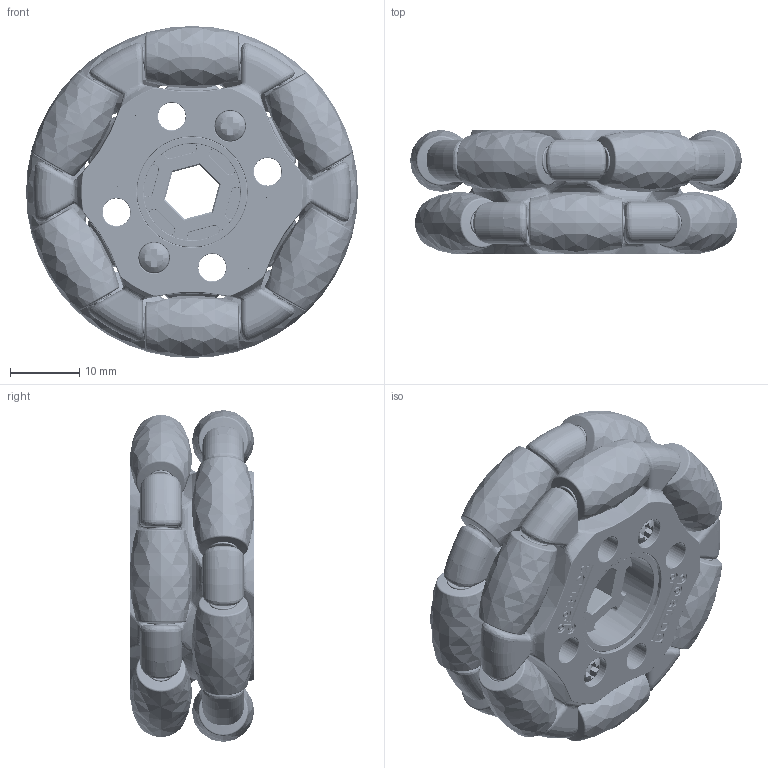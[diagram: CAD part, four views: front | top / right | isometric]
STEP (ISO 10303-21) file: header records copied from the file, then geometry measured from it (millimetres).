
FILE_DESCRIPTION(/* description */ (''),/* implementation_level */ '2;1');
FILE_NAME(/* name */ '3624-4008-0048 3 Piece.step',/* time_stamp */ '2023-07-19T11:15:52-05:00',/* author */ (''),/* organization */ (''),/* preprocessor_version */ 'ST-DEVELOPER v19.2',/* originating_system */ 'Autodesk Translation Framework v12.6.0.85',/* authorisation */ '');
FILE_SCHEMA (('AUTOMOTIVE_DESIGN { 1 0 10303 214 3 1 1 }'));
Products named in the file (9): [*] 3624-4008-0048 3P_2; Core; Side; Rollers; Roller; Tire; Core (1); Shaft; M2.5 x 1mm x 14mm
Assembly tree (18 placements, depth 4):
  [*] 3624-4008-0048 3P_2
    Core
    Side  x2
    Rollers  x2
      Roller
        Tire
        Core (1)
        Shaft
    M2.5 x 1mm x 14mm  x4
Bounding box: 48 x 18 x 48 mm (x, y, z)
Volume: 20289.6 mm3; surface area: 29048.7 mm2
Topology: 43 solids, 43 shells, 3461 faces, 8706 edges, 5427 vertices
Faces by surface type: cylinder 1168, plane 836, torus 680, bspline 561, cone 216
Full cylindrical faces by diameter (mm): 1.75 x28, 2 x24, 2.2 x4, 2.5 x32, 4 x108, 4.5 x8, 5.5 x16, 6.077 x48, 6.989 x24, 14 x2, 16 x2
Entity records: 72952 total; most frequent: CARTESIAN_POINT 29064, ORIENTED_EDGE 9738, DIRECTION 8395, EDGE_CURVE 4869, AXIS2_PLACEMENT_3D 3315, VERTEX_POINT 3131, EDGE_LOOP 1944, FACE_OUTER_BOUND 1829
